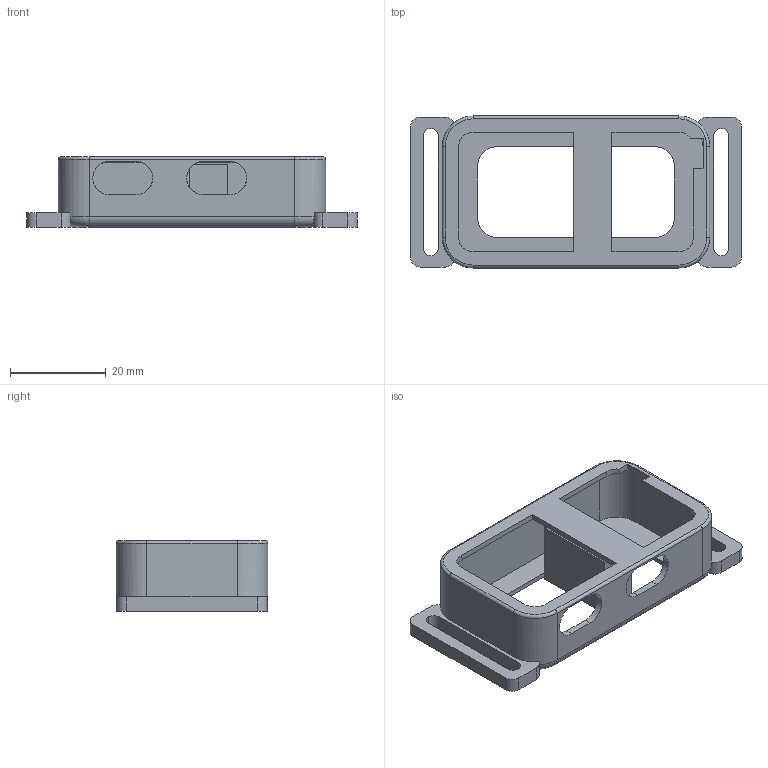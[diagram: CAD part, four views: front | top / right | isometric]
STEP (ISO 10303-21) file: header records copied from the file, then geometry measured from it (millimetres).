
FILE_DESCRIPTION(('Open CASCADE Model'),'2;1');
FILE_NAME('Open CASCADE Shape Model','2026-11-03T19:16:52',('Author'),( 'Open CASCADE'),'Open CASCADE STEP processor 7.9','Open CASCADE 7.9' ,'Unknown');
FILE_SCHEMA(('AUTOMOTIVE_DESIGN { 1 0 10303 214 1 1 1 1 }'));
Length unit declared in the file: millimetre
Products named in the file (3): Open CASCADE STEP translator 7.9 6; Open CASCADE STEP translator 7.9 6.1; Open CASCADE STEP translator 7.9 6.2
Assembly tree (2 placements, depth 2):
  Open CASCADE STEP translator 7.9 6
    Open CASCADE STEP translator 7.9 6.1
    Open CASCADE STEP translator 7.9 6.2
Bounding box: 69 x 31.7 x 14.7 mm (x, y, z)
Volume: 6054 mm3; surface area: 9972.9 mm2
Topology: 2 solids, 2 shells, 117 faces, 330 edges, 216 vertices
Faces by surface type: plane 67, cylinder 42, torus 8
Entity records: 8476 total; most frequent: CARTESIAN_POINT 1998, DIRECTION 1160, ORIENTED_EDGE 660, PCURVE 660, DEFINITIONAL_REPRESENTATION 660, LINE 646, VECTOR 646, EDGE_CURVE 330
